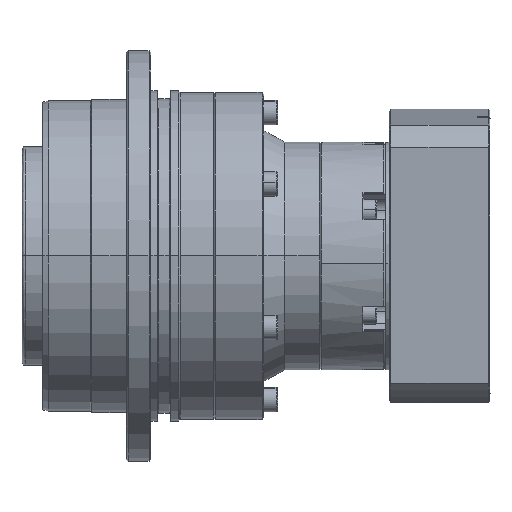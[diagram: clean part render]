
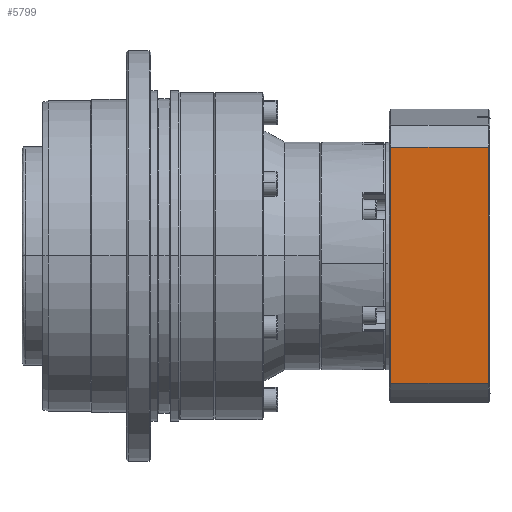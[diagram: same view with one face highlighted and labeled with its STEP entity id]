
A CAD part, top view. The second image highlights one B-rep face of the part: STEP entity #5799.
In plain terms, the highlighted planar face has unit normal (0, -0.069, 0.998) as drawn and (0, 0, 1) by its records, which use the part's own axes.
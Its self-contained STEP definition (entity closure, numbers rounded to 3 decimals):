
#717 = DIRECTION ( 'NONE',  ( 0., -1., 0. ) ) ;
#823 = DIRECTION ( 'NONE',  ( 0., 0., 1. ) ) ;
#1062 = PLANE ( 'NONE',  #8275 ) ;
#5241 = CARTESIAN_POINT ( 'NONE',  ( -25.5, 40., 40. ) ) ;
#5658 = DIRECTION ( 'NONE',  ( 1., 0., 0. ) ) ;
#5799 = ADVANCED_FACE ( 'NONE', ( #25476 ), #1062, .T. ) ;
#7324 = ORIENTED_EDGE ( 'NONE', *, *, #22913, .T. ) ;
#7426 = CARTESIAN_POINT ( 'NONE',  ( 7., 34.004, 40. ) ) ;
#8044 = DIRECTION ( 'NONE',  ( 0., 1., 0. ) ) ;
#8275 = AXIS2_PLACEMENT_3D ( 'NONE', #5241, #823, #717 ) ;
#9724 = VERTEX_POINT ( 'NONE', #7426 ) ;
#11396 = CARTESIAN_POINT ( 'NONE',  ( 7., -34.004, 40. ) ) ;
#12177 = DIRECTION ( 'NONE',  ( -1., 0., 0. ) ) ;
#12210 = ORIENTED_EDGE ( 'NONE', *, *, #22763, .T. ) ;
#13926 = VERTEX_POINT ( 'NONE', #11396 ) ;
#14402 = CARTESIAN_POINT ( 'NONE',  ( 7., -52., 40. ) ) ;
#15028 = LINE ( 'NONE', #28091, #20687 ) ;
#15912 = VECTOR ( 'NONE', #8044, 1000. ) ;
#16515 = LINE ( 'NONE', #17733, #21121 ) ;
#17733 = CARTESIAN_POINT ( 'NONE',  ( -25.5, 34.004, 40. ) ) ;
#20339 = ORIENTED_EDGE ( 'NONE', *, *, #32194, .T. ) ;
#20687 = VECTOR ( 'NONE', #5658, 1000. ) ;
#21121 = VECTOR ( 'NONE', #12177, 1000. ) ;
#22190 = CARTESIAN_POINT ( 'NONE',  ( 35., 34.004, 40. ) ) ;
#22763 = EDGE_CURVE ( 'NONE', #26685, #27716, #23291, .T. ) ;
#22831 = VECTOR ( 'NONE', #33690, 1000. ) ;
#22913 = EDGE_CURVE ( 'NONE', #13926, #26685, #15028, .T. ) ;
#23291 = LINE ( 'NONE', #30384, #15912 ) ;
#24538 = LINE ( 'NONE', #14402, #22831 ) ;
#25476 = FACE_OUTER_BOUND ( 'NONE', #31852, .T. ) ;
#26685 = VERTEX_POINT ( 'NONE', #33695 ) ;
#27716 = VERTEX_POINT ( 'NONE', #22190 ) ;
#28091 = CARTESIAN_POINT ( 'NONE',  ( -25.5, -34.004, 40. ) ) ;
#30384 = CARTESIAN_POINT ( 'NONE',  ( 35., 40., 40. ) ) ;
#31531 = EDGE_CURVE ( 'NONE', #27716, #9724, #16515, .T. ) ;
#31687 = ORIENTED_EDGE ( 'NONE', *, *, #31531, .T. ) ;
#31852 = EDGE_LOOP ( 'NONE', ( #31687, #20339, #7324, #12210 ) ) ;
#32194 = EDGE_CURVE ( 'NONE', #9724, #13926, #24538, .T. ) ;
#33690 = DIRECTION ( 'NONE',  ( 0., -1., 0. ) ) ;
#33695 = CARTESIAN_POINT ( 'NONE',  ( 35., -34.004, 40. ) ) ;
